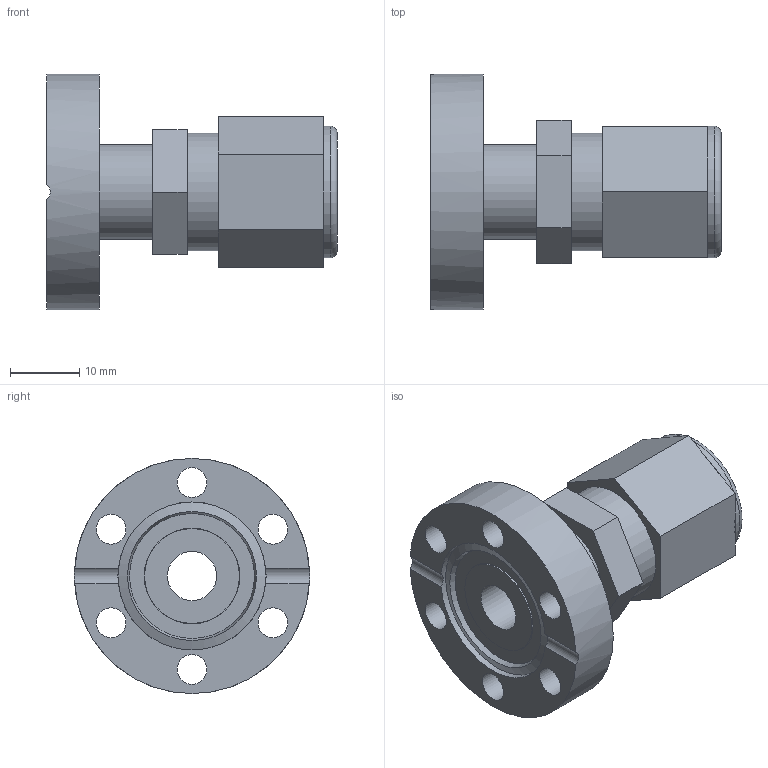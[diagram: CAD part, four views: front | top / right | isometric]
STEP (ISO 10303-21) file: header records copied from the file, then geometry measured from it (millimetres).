
FILE_DESCRIPTION( ( 'Unknown' ), '1' );
FILE_NAME( 'X:/Daten ( aktueller Bestand )/Projekte und Zeichnungen/Solid Edge/STP-Dateien/CF-Teile/7551-10.stp', 'Unknown', ( 'Unknown' ), ( 'Unknown' ), 'PSStep 14.0', 'Unknown', ' ' );
FILE_SCHEMA( ( 'AUTOMOTIVE_DESIGN { 1 0 10303 214 1 1 1 1 }' ) );
Length unit declared in the file: millimetre
Products named in the file (3): Assem1; 7551-6.1; 10x1-4
Assembly tree (2 placements, depth 2):
  Assem1
    7551-6.1
    10x1-4
Bounding box: 42 x 34 x 34 mm (x, y, z)
Volume: 12414.9 mm3; surface area: 7126.5 mm2
Topology: 2 solids, 2 shells, 47 faces, 115 edges, 76 vertices
Faces by surface type: plane 28, cylinder 16, cone 2, torus 1
Full cylindrical faces by diameter (mm): 4.3 x6, 7.1 x1, 10 x1, 13.7 x1, 13.8 x1, 17 x1, 19 x1, 21.4 x1, 34 x1
Entity records: 1732 total; most frequent: CARTESIAN_POINT 258, DIRECTION 224, ORIENTED_EDGE 178, AXIS2_PLACEMENT_3D 89, EDGE_CURVE 89, EDGE_LOOP 84, VERTEX_POINT 67, FACE_OUTER_BOUND 62
